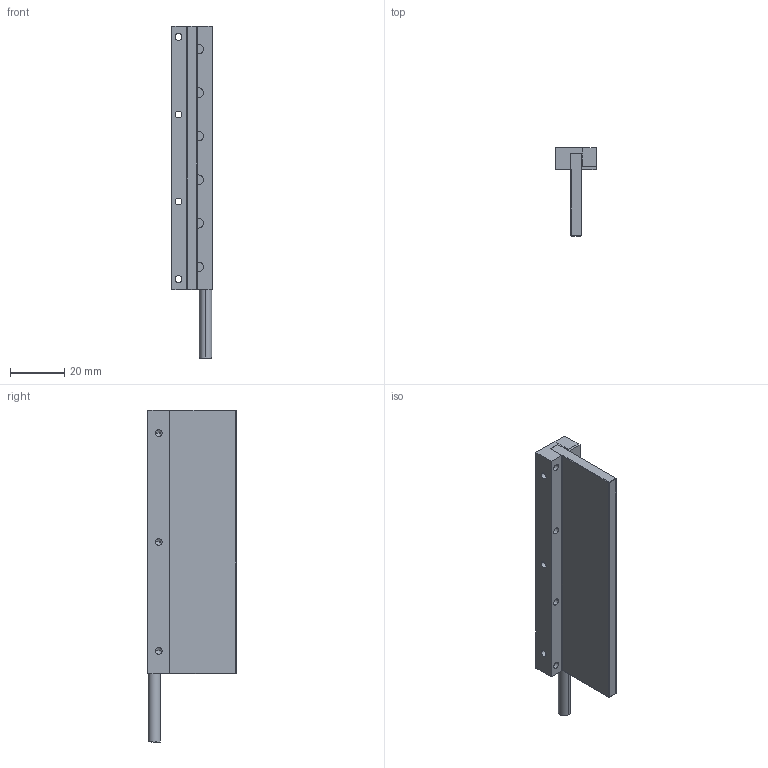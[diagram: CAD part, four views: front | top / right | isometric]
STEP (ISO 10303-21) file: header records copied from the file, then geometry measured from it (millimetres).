
FILE_DESCRIPTION (( 'STEP AP203' ), '1' );
FILE_NAME ('IL34-6 CU 3D.STEP', '2020-09-21T11:47:48', ( '' ), ( '' ), 'SwSTEP 2.0', 'SolidWorks 2018', '' );
FILE_SCHEMA (( 'CONFIG_CONTROL_DESIGN' ));
Length unit declared in the file: millimetre
Products named in the file (3): IL34-6 CU 3D; Casting IL34-6; IL34-6 housing
Assembly tree (2 placements, depth 2):
  IL34-6 CU 3D
    IL34-6 housing
    Casting IL34-6
Bounding box: 14.9 x 32.45 x 122 mm (x, y, z)
Volume: 20631.2 mm3; surface area: 14591.1 mm2
Topology: 2 solids, 4 shells, 162 faces, 445 edges, 270 vertices
Faces by surface type: plane 87, cylinder 57, cone 16, sphere 2
Entity records: 5317 total; most frequent: DIRECTION 880, CARTESIAN_POINT 874, ORIENTED_EDGE 862, EDGE_CURVE 431, VECTOR 312, LINE 312, AXIS2_PLACEMENT_3D 284, VERTEX_POINT 270
